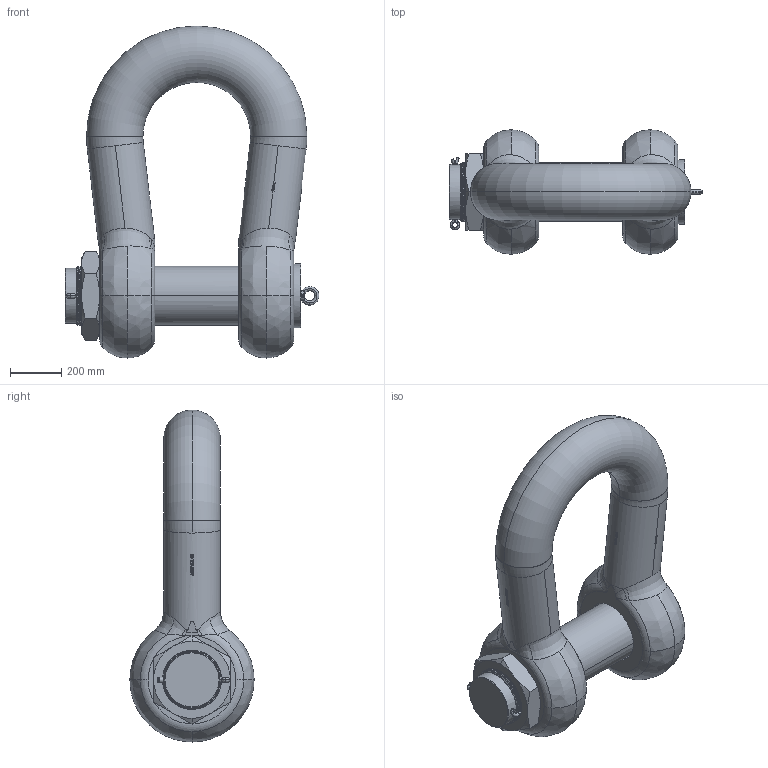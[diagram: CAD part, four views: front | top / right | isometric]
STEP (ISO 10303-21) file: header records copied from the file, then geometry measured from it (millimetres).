
FILE_DESCRIPTION(('STEP AP214'),'1');
FILE_NAME('hdgphm0900.stp','2017-06-30T09:25:39',('TraceParts'),('TraceParts S.A.'),'Spatial InterOp 3D',' ',' ');
FILE_SCHEMA(('automotive_design'));
Length unit declared in the file: millimetre
Products named in the file (5): HDGPHM0900|HDGPHM0900_1#HDGPHM0900_1;MANIFOLD_SOLID_BREP #22041; HDGPHM0900|HDGPHM0900_1#HDGPHM0900_2;MANIFOLD_SOLID_BREP #42140; hdgphm0900_3; hdgphm0900_4; hdgphm0900_5
Bounding box: 991 x 485 x 1295.49 mm (x, y, z)
Volume: 159126226.1 mm3; surface area: 3563260.7 mm2
Topology: 5 solids, 5 shells, 1298 faces, 5381 edges, 4142 vertices
Faces by surface type: bspline 510, plane 382, cylinder 344, torus 36, cone 26
Entity records: 109809 total; most frequent: CARTESIAN_POINT 63617, ORIENTED_EDGE 10758, EDGE_CURVE 5379, VERTEX_POINT 4142, B_SPLINE_CURVE_WITH_KNOTS 4125, DIRECTION 2889, EDGE_LOOP 1359, STYLED_ITEM 1303
